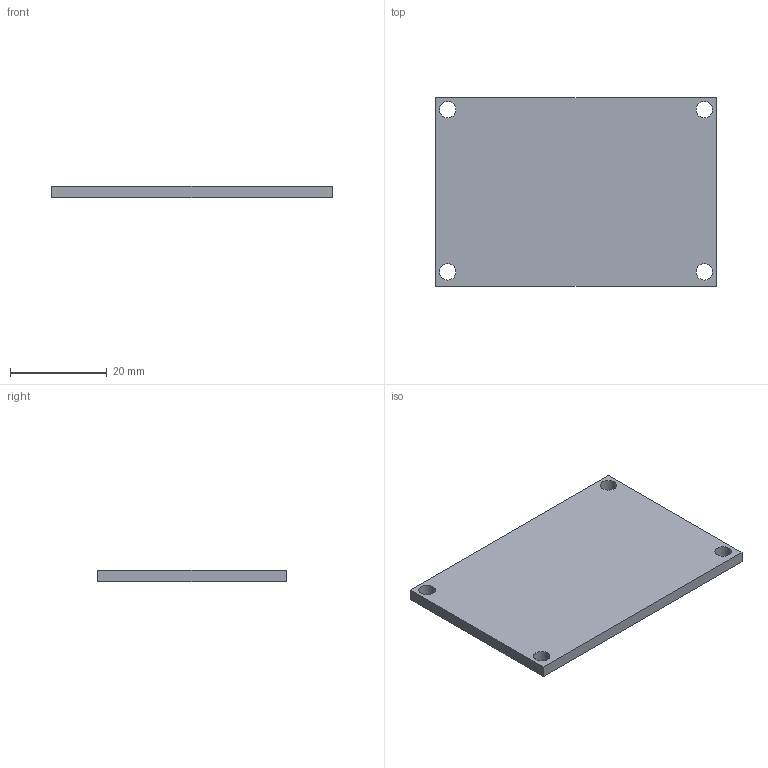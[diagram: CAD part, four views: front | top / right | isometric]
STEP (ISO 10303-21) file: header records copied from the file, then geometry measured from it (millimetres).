
FILE_DESCRIPTION(('FreeCAD Model'),'2;1');
FILE_NAME('Open CASCADE Shape Model','2026-11-16T14:52:49',('FreeCAD'),( 'FreeCAD'),'Open CASCADE STEP processor 7.9','FreeCAD','Unknown');
FILE_SCHEMA(('AUTOMOTIVE_DESIGN { 1 0 10303 214 1 1 1 1 }'));
Length unit declared in the file: millimetre
Products named in the file (1): Open CASCADE STEP translator 7.9 3
Bounding box: 58 x 39 x 2.4 mm (x, y, z)
Volume: 5341.6 mm3; surface area: 5019.5 mm2
Topology: 1 solids, 1 shells, 10 faces, 24 edges, 16 vertices
Faces by surface type: plane 6, cylinder 4
Full cylindrical faces by diameter (mm): 3.4 x4
Entity records: 322 total; most frequent: DIRECTION 54, CARTESIAN_POINT 51, ORIENTED_EDGE 48, EDGE_CURVE 24, AXIS2_PLACEMENT_3D 19, FACE_BOUND 18, EDGE_LOOP 18, VERTEX_POINT 16
